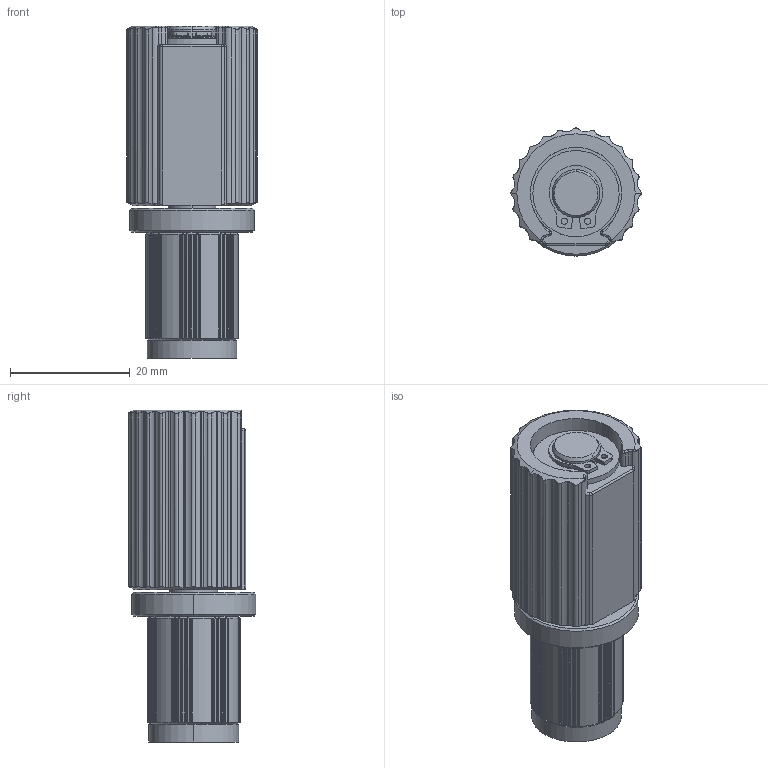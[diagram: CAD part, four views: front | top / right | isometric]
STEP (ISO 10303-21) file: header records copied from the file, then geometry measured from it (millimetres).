
FILE_DESCRIPTION (( 'STEP AP214' ), '1' );
FILE_NAME ('Reell TI-360-X.XX-03,04.STEP', '2019-08-13T15:15:27', ( 'USER' ), ( '' ), 'SwSTEP 2.0', 'SolidWorks 2017', '' );
FILE_SCHEMA (( 'AUTOMOTIVE_DESIGN' ));
Length unit declared in the file: millimetre
Products named in the file (3): Reell TI-360-X.XX-03,04; Reell TI-360-X.XX-03,04A; ONE WAY HOUSING
Assembly tree (2 placements, depth 2):
  Reell TI-360-X.XX-03,04
    ONE WAY HOUSING
    Reell TI-360-X.XX-03,04A
Bounding box: 21.75 x 21.35 x 55.44 mm (x, y, z)
Volume: 14676.1 mm3; surface area: 7288.6 mm2
Topology: 4 solids, 7 shells, 621 faces, 1664 edges, 1071 vertices
Faces by surface type: cylinder 382, torus 126, plane 85, cone 28
Entity records: 21596 total; most frequent: CARTESIAN_POINT 6532, ORIENTED_EDGE 3328, DIRECTION 2921, EDGE_CURVE 1664, AXIS2_PLACEMENT_3D 1183, VERTEX_POINT 1071, EDGE_LOOP 651, ADVANCED_FACE 621
